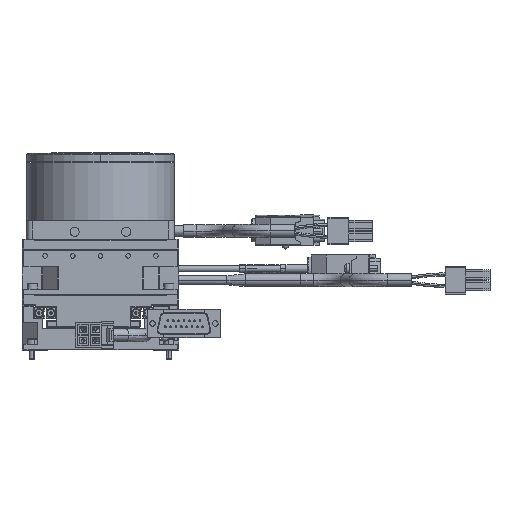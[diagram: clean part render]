
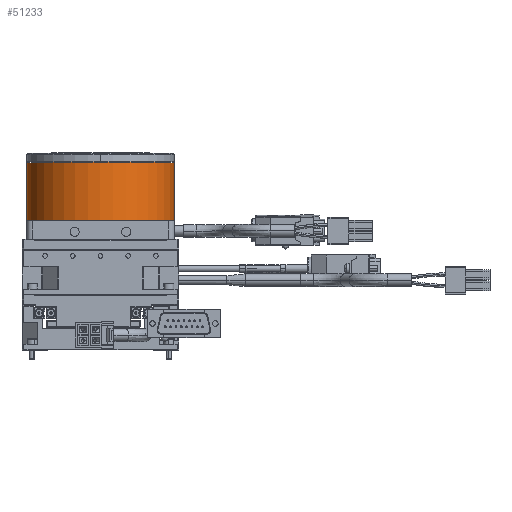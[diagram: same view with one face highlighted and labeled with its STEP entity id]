
A CAD part, top view. The second image highlights one B-rep face of the part: STEP entity #51233.
In plain terms, the highlighted cylindrical face has radius 40 mm (diameter 80 mm), a partial arc.
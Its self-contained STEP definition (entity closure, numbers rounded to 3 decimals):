
#822 = LINE ( 'NONE', #14515, #55339 ) ;
#3938 = VERTEX_POINT ( 'NONE', #31330 ) ;
#8363 = CARTESIAN_POINT ( 'NONE',  ( 62.516, 209.443, 148.153 ) ) ;
#8889 = DIRECTION ( 'NONE',  ( -1., 0., 0. ) ) ;
#9702 = CARTESIAN_POINT ( 'NONE',  ( 22.516, 209.443, 108.153 ) ) ;
#12416 = EDGE_CURVE ( 'NONE', #78271, #3938, #81258, .T. ) ;
#14515 = CARTESIAN_POINT ( 'NONE',  ( 102.516, 253.443, 108.153 ) ) ;
#14954 = EDGE_CURVE ( 'NONE', #3938, #38499, #822, .T. ) ;
#16645 = CARTESIAN_POINT ( 'NONE',  ( 62.516, 253.443, 108.153 ) ) ;
#20017 = DIRECTION ( 'NONE',  ( 0., 1., 0. ) ) ;
#20699 = ORIENTED_EDGE ( 'NONE', *, *, #27473, .T. ) ;
#20801 = VERTEX_POINT ( 'NONE', #30215 ) ;
#20915 = CARTESIAN_POINT ( 'NONE',  ( 62.516, 209.443, 108.153 ) ) ;
#21510 = AXIS2_PLACEMENT_3D ( 'NONE', #20915, #77051, #50125 ) ;
#21761 = VERTEX_POINT ( 'NONE', #9702 ) ;
#22748 = ORIENTED_EDGE ( 'NONE', *, *, #12416, .T. ) ;
#24918 = ORIENTED_EDGE ( 'NONE', *, *, #53262, .T. ) ;
#25499 = AXIS2_PLACEMENT_3D ( 'NONE', #16645, #45401, #8889 ) ;
#27389 = AXIS2_PLACEMENT_3D ( 'NONE', #30125, #57973, #85337 ) ;
#27473 = EDGE_CURVE ( 'NONE', #21761, #78271, #60907, .T. ) ;
#29095 = DIRECTION ( 'NONE',  ( 0., 1., 0. ) ) ;
#30125 = CARTESIAN_POINT ( 'NONE',  ( 62.516, 209.443, 108.153 ) ) ;
#30215 = CARTESIAN_POINT ( 'NONE',  ( 22.516, 241.043, 108.153 ) ) ;
#31330 = CARTESIAN_POINT ( 'NONE',  ( 102.516, 209.443, 108.153 ) ) ;
#37958 = ORIENTED_EDGE ( 'NONE', *, *, #52188, .F. ) ;
#38499 = VERTEX_POINT ( 'NONE', #58853 ) ;
#42720 = CIRCLE ( 'NONE', #50037, 40. ) ;
#44305 = DIRECTION ( 'NONE',  ( -1., 0., 0. ) ) ;
#44768 = CARTESIAN_POINT ( 'NONE',  ( 62.516, 241.043, 108.153 ) ) ;
#45401 = DIRECTION ( 'NONE',  ( 0., 1., 0. ) ) ;
#50037 = AXIS2_PLACEMENT_3D ( 'NONE', #44768, #65322, #44305 ) ;
#50125 = DIRECTION ( 'NONE',  ( -1., 0., 0. ) ) ;
#51233 = ADVANCED_FACE ( 'NONE', ( #59086 ), #52259, .T. ) ;
#52188 = EDGE_CURVE ( 'NONE', #21761, #20801, #90284, .T. ) ;
#52259 = CYLINDRICAL_SURFACE ( 'NONE', #25499, 40. ) ;
#53262 = EDGE_CURVE ( 'NONE', #38499, #20801, #42720, .T. ) ;
#55339 = VECTOR ( 'NONE', #29095, 1000. ) ;
#57973 = DIRECTION ( 'NONE',  ( 0., 1., 0. ) ) ;
#58853 = CARTESIAN_POINT ( 'NONE',  ( 102.516, 241.043, 108.153 ) ) ;
#59086 = FACE_OUTER_BOUND ( 'NONE', #63091, .T. ) ;
#60907 = CIRCLE ( 'NONE', #27389, 40. ) ;
#62461 = CARTESIAN_POINT ( 'NONE',  ( 22.516, 253.443, 108.153 ) ) ;
#63091 = EDGE_LOOP ( 'NONE', ( #22748, #84341, #24918, #37958, #20699 ) ) ;
#65322 = DIRECTION ( 'NONE',  ( 0., -1., 0. ) ) ;
#77051 = DIRECTION ( 'NONE',  ( 0., 1., 0. ) ) ;
#78271 = VERTEX_POINT ( 'NONE', #8363 ) ;
#81258 = CIRCLE ( 'NONE', #21510, 40. ) ;
#84341 = ORIENTED_EDGE ( 'NONE', *, *, #14954, .T. ) ;
#85337 = DIRECTION ( 'NONE',  ( -1., 0., 0. ) ) ;
#85570 = VECTOR ( 'NONE', #20017, 1000. ) ;
#90284 = LINE ( 'NONE', #62461, #85570 ) ;
